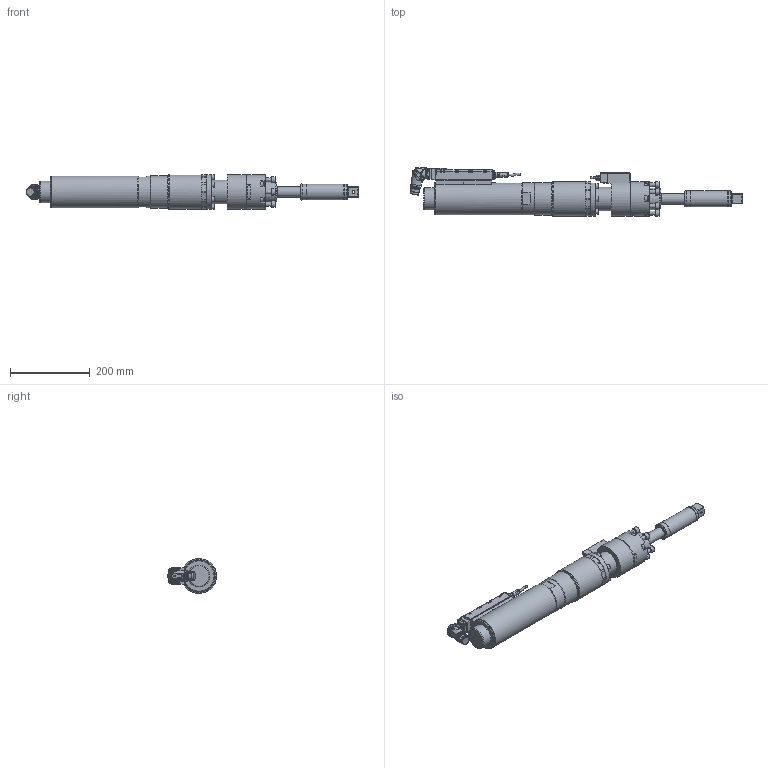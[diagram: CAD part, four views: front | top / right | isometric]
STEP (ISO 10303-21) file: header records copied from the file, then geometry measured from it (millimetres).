
FILE_DESCRIPTION (( 'STEP AP214' ), '1' );
FILE_NAME ('70082428_ESX461DRX800AZX460.STEP', '2016-11-14T09:30:39', ( 'admin' ), ( '' ), 'SwSTEP 2.0', 'SolidWorks 2014', '' );
FILE_SCHEMA (( 'AUTOMOTIVE_DESIGN' ));
Length unit declared in the file: millimetre
Products named in the file (11): 7006176_3; 70082373; 70082326; 70082311_ESX461_Standard_Winkel; 70082293_2; 70057493_Standard_winkel; 70057493_4; 70057493_3; 70057493_2; 70082311; 70082428_ESX461DRX800AZX460
Assembly tree (10 placements, depth 4):
  70082428_ESX461DRX800AZX460
    70082311_ESX461_Standard_Winkel
      70082311
      70057493_Standard_winkel
        70057493_2
        70057493_3
        70057493_4
      70082293_2
    70082326
    70082373
    7006176_3
Bounding box: 833.26 x 122.48 x 87 mm (x, y, z)
Volume: 3392499.1 mm3; surface area: 333626.2 mm2
Topology: 12 solids, 12 shells, 2420 faces, 6257 edges, 4063 vertices
Faces by surface type: plane 1221, cylinder 609, bspline 263, cone 247, torus 75, sphere 5
Full cylindrical faces by diameter (mm): 0.5 x7, 0.57 x14, 1.6 x2, 2 x3, 3 x4, 4.2 x1, 4.9 x3, 5 x4, 5.5 x12, 6 x2, 6.8 x12, 8 x34, 8.459 x2, 9 x1, 9.1 x1, 10 x6, 11.08 x1, 12.3 x1, 13 x18, 14 x2, 14.5 x2, 16 x6, 17.4 x1, 20 x1, 21.15 x1, 21.5 x1, 21.7 x1, 22.3 x1, 24.3 x1, 24.75 x2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
Entity records: 85382 total; most frequent: CARTESIAN_POINT 28759, ORIENTED_EDGE 11476, DIRECTION 10132, EDGE_CURVE 5738, VERTEX_POINT 3916, AXIS2_PLACEMENT_3D 3744, EDGE_LOOP 3012, FACE_OUTER_BOUND 2659
